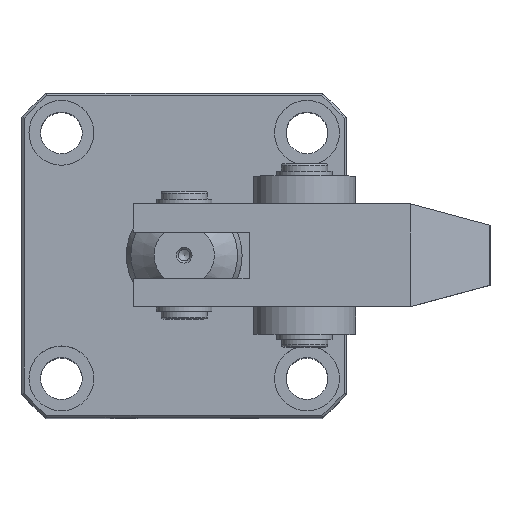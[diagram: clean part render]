
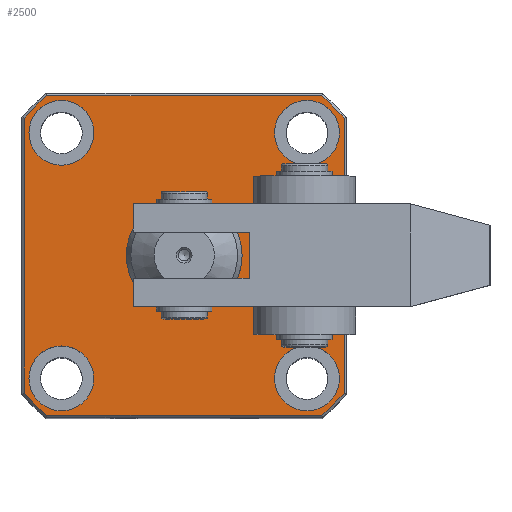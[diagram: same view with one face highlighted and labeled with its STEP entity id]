
A CAD part, top view. The second image highlights one B-rep face of the part: STEP entity #2500.
In plain terms, the highlighted planar face has unit normal (0, 0, 1).
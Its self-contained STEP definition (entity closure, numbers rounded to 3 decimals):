
#211=LINE('',#3992,#366);
#212=LINE('',#3995,#367);
#213=LINE('',#3997,#368);
#214=LINE('',#4001,#369);
#215=LINE('',#4005,#370);
#216=LINE('',#4009,#371);
#217=LINE('',#4013,#372);
#218=LINE('',#4015,#373);
#366=VECTOR('',#3175,1000.);
#367=VECTOR('',#3176,1000.);
#368=VECTOR('',#3177,1000.);
#369=VECTOR('',#3180,1000.);
#370=VECTOR('',#3183,1000.);
#371=VECTOR('',#3186,1000.);
#372=VECTOR('',#3189,1000.);
#373=VECTOR('',#3190,1000.);
#498=PLANE('',#2765);
#664=ORIENTED_EDGE('',*,*,#1247,.T.);
#665=ORIENTED_EDGE('',*,*,#1248,.F.);
#666=ORIENTED_EDGE('',*,*,#1249,.F.);
#667=ORIENTED_EDGE('',*,*,#1250,.F.);
#668=ORIENTED_EDGE('',*,*,#1251,.F.);
#669=ORIENTED_EDGE('',*,*,#1252,.T.);
#670=ORIENTED_EDGE('',*,*,#1253,.T.);
#671=ORIENTED_EDGE('',*,*,#1254,.T.);
#672=ORIENTED_EDGE('',*,*,#1255,.T.);
#673=ORIENTED_EDGE('',*,*,#1256,.T.);
#674=ORIENTED_EDGE('',*,*,#1257,.T.);
#675=ORIENTED_EDGE('',*,*,#1258,.T.);
#676=ORIENTED_EDGE('',*,*,#1259,.T.);
#677=ORIENTED_EDGE('',*,*,#1260,.T.);
#678=ORIENTED_EDGE('',*,*,#1261,.T.);
#679=ORIENTED_EDGE('',*,*,#1262,.T.);
#680=ORIENTED_EDGE('',*,*,#1263,.F.);
#1247=EDGE_CURVE('',#1548,#1548,#1755,.T.);
#1248=EDGE_CURVE('',#1549,#1549,#1756,.T.);
#1249=EDGE_CURVE('',#1550,#1550,#1757,.T.);
#1250=EDGE_CURVE('',#1551,#1551,#1758,.T.);
#1251=EDGE_CURVE('',#1552,#1552,#1759,.T.);
#1252=EDGE_CURVE('',#1553,#1554,#211,.T.);
#1253=EDGE_CURVE('',#1554,#1555,#212,.T.);
#1254=EDGE_CURVE('',#1555,#1556,#213,.T.);
#1255=EDGE_CURVE('',#1556,#1557,#1760,.T.);
#1256=EDGE_CURVE('',#1557,#1558,#214,.T.);
#1257=EDGE_CURVE('',#1558,#1559,#1761,.T.);
#1258=EDGE_CURVE('',#1559,#1560,#215,.T.);
#1259=EDGE_CURVE('',#1560,#1561,#1762,.T.);
#1260=EDGE_CURVE('',#1561,#1562,#216,.T.);
#1261=EDGE_CURVE('',#1562,#1563,#1763,.T.);
#1262=EDGE_CURVE('',#1563,#1564,#217,.T.);
#1263=EDGE_CURVE('',#1553,#1564,#218,.T.);
#1548=VERTEX_POINT('',#3982);
#1549=VERTEX_POINT('',#3985);
#1550=VERTEX_POINT('',#3987);
#1551=VERTEX_POINT('',#3989);
#1552=VERTEX_POINT('',#3991);
#1553=VERTEX_POINT('',#3993);
#1554=VERTEX_POINT('',#3994);
#1555=VERTEX_POINT('',#3996);
#1556=VERTEX_POINT('',#3998);
#1557=VERTEX_POINT('',#4000);
#1558=VERTEX_POINT('',#4002);
#1559=VERTEX_POINT('',#4004);
#1560=VERTEX_POINT('',#4006);
#1561=VERTEX_POINT('',#4008);
#1562=VERTEX_POINT('',#4010);
#1563=VERTEX_POINT('',#4012);
#1564=VERTEX_POINT('',#4014);
#1755=CIRCLE('',#2764,12.5);
#1756=CIRCLE('',#2766,7.);
#1757=CIRCLE('',#2767,7.);
#1758=CIRCLE('',#2768,7.);
#1759=CIRCLE('',#2769,7.);
#1760=CIRCLE('',#2770,45.5);
#1761=CIRCLE('',#2771,45.5);
#1762=CIRCLE('',#2772,45.5);
#1763=CIRCLE('',#2773,45.5);
#1917=EDGE_LOOP('',(#664));
#1918=EDGE_LOOP('',(#665));
#1919=EDGE_LOOP('',(#666));
#1920=EDGE_LOOP('',(#667));
#1921=EDGE_LOOP('',(#668));
#1922=EDGE_LOOP('',(#669,#670,#671,#672,#673,#674,#675,#676,#677,#678,#679,
#680));
#2200=FACE_BOUND('',#1917,.T.);
#2201=FACE_BOUND('',#1918,.T.);
#2202=FACE_BOUND('',#1919,.T.);
#2203=FACE_BOUND('',#1920,.T.);
#2204=FACE_BOUND('',#1921,.T.);
#2205=FACE_BOUND('',#1922,.T.);
#2500=ADVANCED_FACE('',(#2200,#2201,#2202,#2203,#2204,#2205),#498,.T.);
#2764=AXIS2_PLACEMENT_3D('',#3981,#3163,#3164);
#2765=AXIS2_PLACEMENT_3D('',#3983,#3165,#3166);
#2766=AXIS2_PLACEMENT_3D('',#3984,#3167,#3168);
#2767=AXIS2_PLACEMENT_3D('',#3986,#3169,#3170);
#2768=AXIS2_PLACEMENT_3D('',#3988,#3171,#3172);
#2769=AXIS2_PLACEMENT_3D('',#3990,#3173,#3174);
#2770=AXIS2_PLACEMENT_3D('',#3999,#3178,#3179);
#2771=AXIS2_PLACEMENT_3D('',#4003,#3181,#3182);
#2772=AXIS2_PLACEMENT_3D('',#4007,#3184,#3185);
#2773=AXIS2_PLACEMENT_3D('',#4011,#3187,#3188);
#3163=DIRECTION('',(0.,0.,-1.));
#3164=DIRECTION('',(0.,-1.,0.));
#3165=DIRECTION('',(0.,0.,1.));
#3166=DIRECTION('',(0.,-1.,0.));
#3167=DIRECTION('',(0.,0.,1.));
#3168=DIRECTION('',(1.,0.,0.));
#3169=DIRECTION('',(0.,0.,1.));
#3170=DIRECTION('',(1.,0.,0.));
#3171=DIRECTION('',(0.,0.,1.));
#3172=DIRECTION('',(1.,0.,0.));
#3173=DIRECTION('',(0.,0.,1.));
#3174=DIRECTION('',(1.,0.,0.));
#3175=DIRECTION('',(0.,1.,0.));
#3176=DIRECTION('',(1.,0.,0.));
#3177=DIRECTION('',(0.,1.,0.));
#3178=DIRECTION('',(0.,0.,1.));
#3179=DIRECTION('',(0.,-1.,0.));
#3180=DIRECTION('',(-1.,0.,0.));
#3181=DIRECTION('',(0.,0.,1.));
#3182=DIRECTION('',(0.,-1.,0.));
#3183=DIRECTION('',(0.,-1.,0.));
#3184=DIRECTION('',(0.,0.,1.));
#3185=DIRECTION('',(0.,-1.,0.));
#3186=DIRECTION('',(1.,0.,0.));
#3187=DIRECTION('',(0.,0.,1.));
#3188=DIRECTION('',(0.,-1.,0.));
#3189=DIRECTION('',(0.,1.,0.));
#3190=DIRECTION('',(1.,0.,0.));
#3981=CARTESIAN_POINT('',(0.,0.,90.));
#3982=CARTESIAN_POINT('',(0.,-12.5,90.));
#3983=CARTESIAN_POINT('',(0.,0.,90.));
#3984=CARTESIAN_POINT('',(-26.5,-26.5,90.));
#3985=CARTESIAN_POINT('',(-19.5,-26.5,90.));
#3986=CARTESIAN_POINT('',(26.5,-26.5,90.));
#3987=CARTESIAN_POINT('',(33.5,-26.5,90.));
#3988=CARTESIAN_POINT('',(26.5,26.5,90.));
#3989=CARTESIAN_POINT('',(33.5,26.5,90.));
#3990=CARTESIAN_POINT('',(-26.5,26.5,90.));
#3991=CARTESIAN_POINT('',(-19.5,26.5,90.));
#3992=CARTESIAN_POINT('',(16.,-11.1,90.));
#3993=CARTESIAN_POINT('',(16.,-11.1,90.));
#3994=CARTESIAN_POINT('',(16.,11.1,90.));
#3995=CARTESIAN_POINT('',(16.,11.1,90.));
#3996=CARTESIAN_POINT('',(34.5,11.1,90.));
#3997=CARTESIAN_POINT('',(34.5,0.,90.));
#3998=CARTESIAN_POINT('',(34.5,29.665,90.));
#3999=CARTESIAN_POINT('',(0.,0.,90.));
#4000=CARTESIAN_POINT('',(29.665,34.5,90.));
#4001=CARTESIAN_POINT('',(0.,34.5,90.));
#4002=CARTESIAN_POINT('',(-29.665,34.5,90.));
#4003=CARTESIAN_POINT('',(0.,0.,90.));
#4004=CARTESIAN_POINT('',(-34.5,29.665,90.));
#4005=CARTESIAN_POINT('',(-34.5,0.,90.));
#4006=CARTESIAN_POINT('',(-34.5,-29.665,90.));
#4007=CARTESIAN_POINT('',(0.,0.,90.));
#4008=CARTESIAN_POINT('',(-29.665,-34.5,90.));
#4009=CARTESIAN_POINT('',(0.,-34.5,90.));
#4010=CARTESIAN_POINT('',(29.665,-34.5,90.));
#4011=CARTESIAN_POINT('',(0.,0.,90.));
#4012=CARTESIAN_POINT('',(34.5,-29.665,90.));
#4013=CARTESIAN_POINT('',(34.5,0.,90.));
#4014=CARTESIAN_POINT('',(34.5,-11.1,90.));
#4015=CARTESIAN_POINT('',(16.,-11.1,90.));
